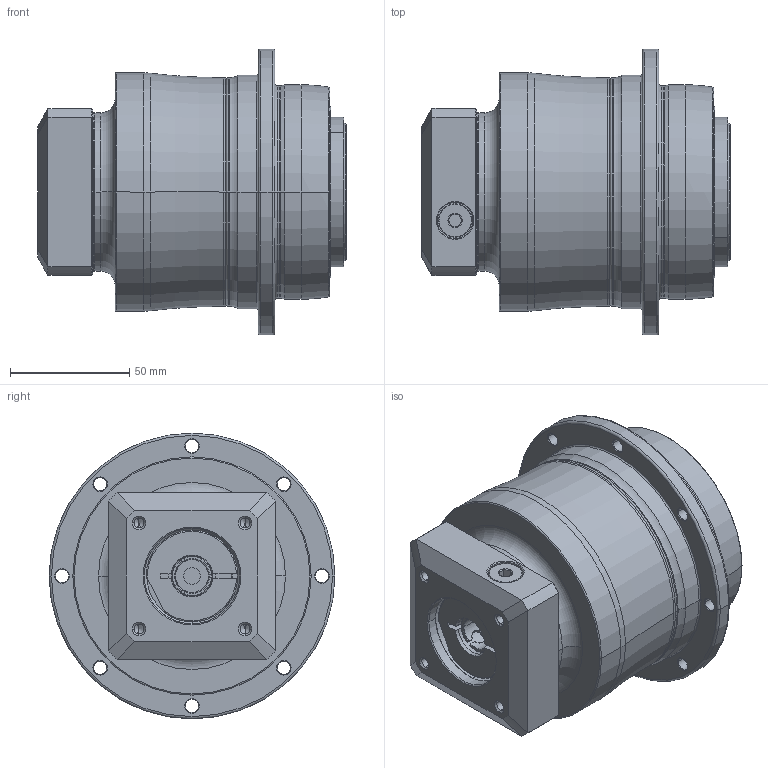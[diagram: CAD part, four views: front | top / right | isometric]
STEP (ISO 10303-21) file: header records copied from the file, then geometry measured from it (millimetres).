
FILE_DESCRIPTION((''),'2;1');
FILE_NAME('AH090_2ST_14-P0409300101_ASM','2016-12-21T',('d01943'),(''),'PRO/ENGINEER BY PARAMETRIC TECHNOLOGY CORPORATION, 2008410','PRO/ENGINEER BY PARAMETRIC TECHNOLOGY CORPORATION, 2008410','');
FILE_SCHEMA(('CONFIG_CONTROL_DESIGN'));
Length unit declared in the file: millimetre
Products named in the file (8): P0278300003; P0359300002; P1317300201; P0409300101; P0503300006; P0912202001; 21711410012; AH090_2ST_14-P0409300101_ASM
Assembly tree (7 placements, depth 2):
  AH090_2ST_14-P0409300101_ASM
    P0278300003
    P0359300002
    P1317300201
    P0409300101
    P0503300006
    P0912202001
    21711410012
Bounding box: 129.5 x 120 x 120 mm (x, y, z)
Volume: 754942.3 mm3; surface area: 125360.1 mm2
Topology: 8 solids, 8 shells, 516 faces, 1171 edges, 687 vertices
Faces by surface type: cylinder 196, cone 152, plane 94, torus 58, bspline 16
Entity records: 18693 total; most frequent: CARTESIAN_POINT 6924, DIRECTION 2643, ORIENTED_EDGE 2250, EDGE_CURVE 1125, AXIS2_PLACEMENT_3D 1112, VERTEX_POINT 687, EDGE_LOOP 608, CIRCLE 597
